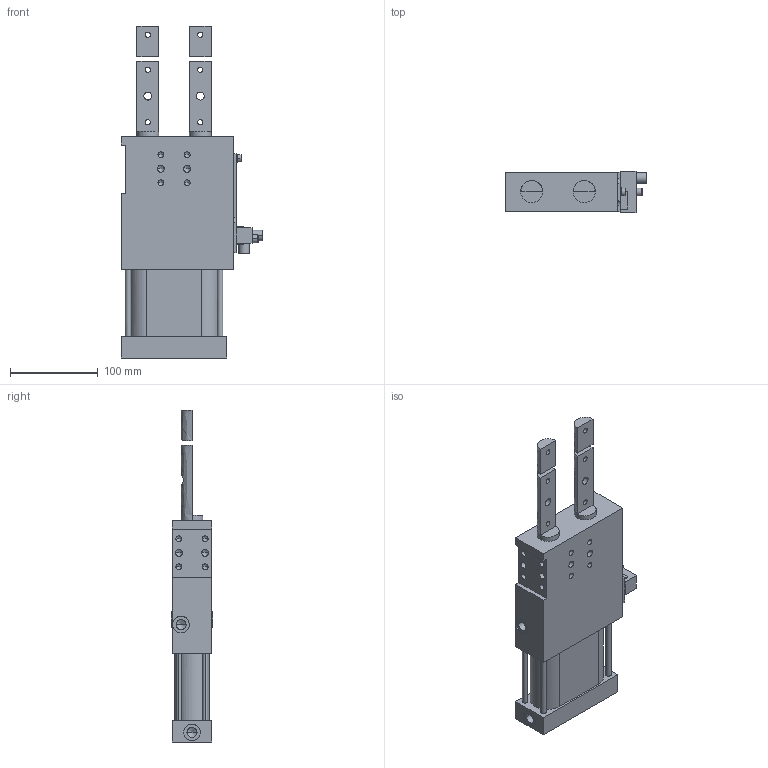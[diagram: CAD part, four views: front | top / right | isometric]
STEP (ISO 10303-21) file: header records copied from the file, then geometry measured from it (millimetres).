
FILE_DESCRIPTION(('CATIA V5 STEP Exchange'),'2;1');
FILE_NAME('C:\Users\huberm\Desktop\SZKD_63_5_BR3_40_A13_T12_TUENKERS.stp','2014-05-20T11:31:54+00:00',('none'),('none'),'CATIA Version 5 Release 19 SP 9 (IN-10)','CATIA V5 STEP AP203','none');
FILE_SCHEMA(('CONFIG_CONTROL_DESIGN'));
Length unit declared in the file: millimetre
Products named in the file (1): SZKD_63_5_BR3_40_A13_T12_TUENKERS
Bounding box: 161 x 47 x 379 mm (x, y, z)
Volume: 1363097.8 mm3; surface area: 129337.9 mm2
Topology: 3 solids, 3 shells, 215 faces, 591 edges, 377 vertices
Faces by surface type: bspline 215
Entity records: 8803 total; most frequent: CARTESIAN_POINT 5429, ORIENTED_EDGE 1102, EDGE_CURVE 551, B_SPLINE_CURVE_WITH_KNOTS 453, VERTEX_POINT 377, EDGE_LOOP 274, ADVANCED_FACE 215, FACE_OUTER_BOUND 215
